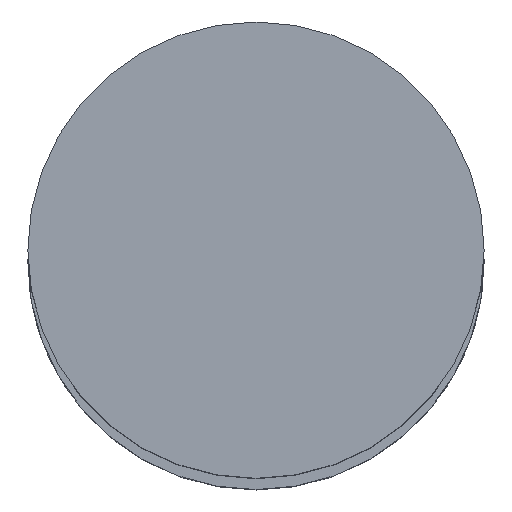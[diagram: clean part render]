
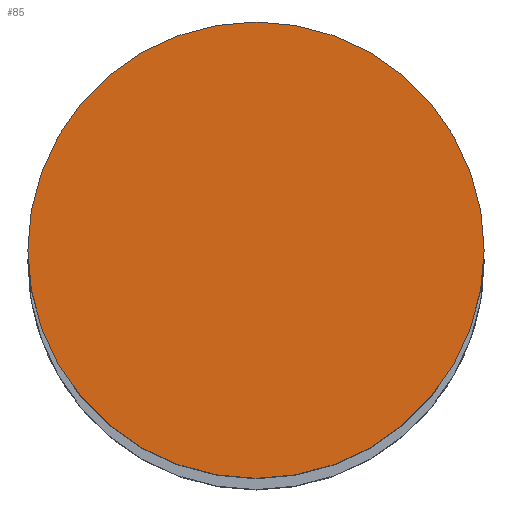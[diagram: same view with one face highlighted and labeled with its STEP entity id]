
A CAD part, top view. The second image highlights one B-rep face of the part: STEP entity #85.
In plain terms, the highlighted planar face has unit normal (0, 0, 1).
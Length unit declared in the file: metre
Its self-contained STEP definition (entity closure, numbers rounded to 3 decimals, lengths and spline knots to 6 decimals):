
#85=ADVANCED_FACE('56:4857',(#165),#166,.F.);
#165=FACE_OUTER_BOUND('',#244,.T.);
#166=PLANE('',#245);
#244=EDGE_LOOP('',(#390,#391));
#245=AXIS2_PLACEMENT_3D('',#392,#393,#394);
#390=ORIENTED_EDGE('',*,*,#433,.F.);
#391=ORIENTED_EDGE('',*,*,#478,.F.);
#392=CARTESIAN_POINT('',(-0.000092,0.000095,3.174));
#393=DIRECTION('',(0.0,0.0,-1.0));
#394=DIRECTION('',(1.0,0.0,0.0));
#433=EDGE_CURVE('27:1418',#505,#501,#507,.T.);
#478=EDGE_CURVE('',#501,#505,#572,.T.);
#501=VERTEX_POINT('',#607);
#505=VERTEX_POINT('',#612);
#507=CIRCLE('',#615,0.0155);
#572=CIRCLE('',#694,0.0155);
#607=CARTESIAN_POINT('',(0.015408,0.000095,3.174));
#612=CARTESIAN_POINT('',(-0.015592,0.000095,3.174));
#615=AXIS2_PLACEMENT_3D('',#736,#737,#738);
#694=AXIS2_PLACEMENT_3D('',#801,#802,#803);
#736=CARTESIAN_POINT('',(-0.000092,0.000095,3.174));
#737=DIRECTION('',(0.0,0.0,-1.0));
#738=DIRECTION('',(1.0,0.0,0.0));
#801=CARTESIAN_POINT('',(-0.000092,0.000095,3.174));
#802=DIRECTION('',(0.0,0.0,-1.0));
#803=DIRECTION('',(1.0,0.0,0.0));
